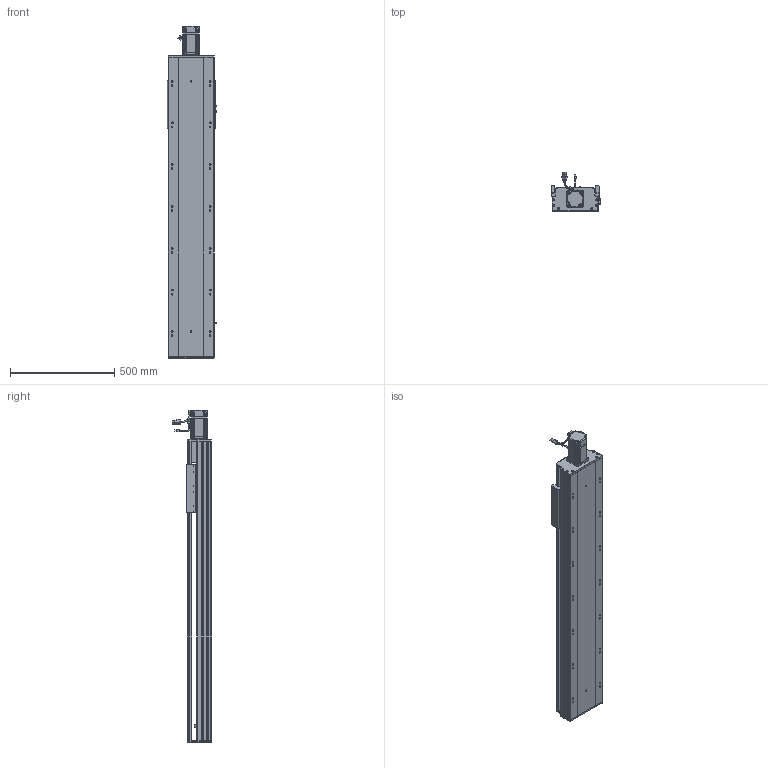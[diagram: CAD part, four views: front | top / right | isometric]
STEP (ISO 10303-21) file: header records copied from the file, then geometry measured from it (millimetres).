
FILE_DESCRIPTION (( 'STEP AP203' ), '1' );
FILE_NAME ('RY220-L2525-800-MK-邧嶺.SLDASM_1000.step', '2022-08-06T08:57:27', ( '' ), ( '' ), 'SwSTEP 2.0', 'SolidWorks 2016', '' );
FILE_SCHEMA (( 'CONFIG_CONTROL_DESIGN' ));
Length unit declared in the file: millimetre
Products named in the file (12): RY220-800-奻裔啣-MK_1000; RY220菁釱MK-800-邧嶺_1000; RY220-L2525-800-MK-邧嶺.SLDASM_1000; 滅袉蝶18-15; 怢湛750W_ECMA-CX0807ES; RY220-俋离672覜茼んえ; 覜茼ん672; 滅袉蝶18-12; RY220綴裔啣; RY220半封闭25-32螺母铝滑块; RY220ヶ裔啣; RY220电机支撑座FK20（PCD90M6）
Assembly tree (15 placements, depth 2):
  RY220-L2525-800-MK-邧嶺.SLDASM_1000
    RY220菁釱MK-800-邧嶺_1000
    RY220电机支撑座FK20（PCD90M6）
    怢湛750W_ECMA-CX0807ES
    滅袉蝶18-12  x2
    RY220ヶ裔啣
    RY220綴裔啣
    覜茼ん672  x3
    RY220半封闭25-32螺母铝滑块
    RY220-800-奻裔啣-MK_1000
    RY220-俋离672覜茼んえ
    滅袉蝶18-15  x2
Bounding box: 238.7 x 187.27 x 1590.3 mm (x, y, z)
Volume: 12550958.9 mm3; surface area: 3495400.5 mm2
Topology: 16 solids, 16 shells, 2234 faces, 6190 edges, 3906 vertices
Faces by surface type: cylinder 1004, plane 915, cone 253, bspline 36, sphere 16, torus 10
Entity records: 73352 total; most frequent: CARTESIAN_POINT 20801, ORIENTED_EDGE 10912, DIRECTION 10319, EDGE_CURVE 5456, AXIS2_PLACEMENT_3D 3627, VERTEX_POINT 3562, VECTOR 3065, LINE 3065
